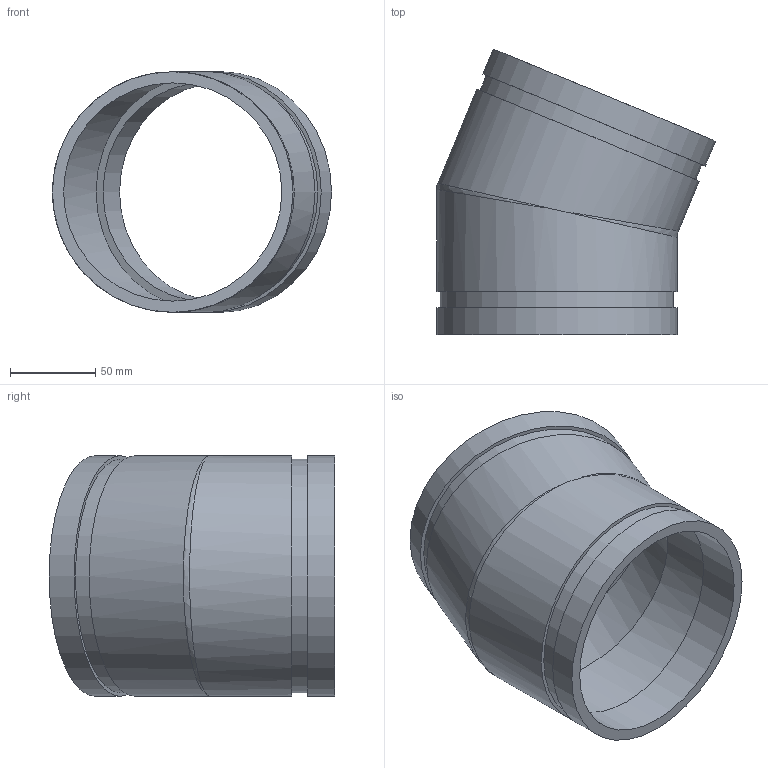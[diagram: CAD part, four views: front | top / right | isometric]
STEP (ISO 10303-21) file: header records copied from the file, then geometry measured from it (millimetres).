
FILE_DESCRIPTION(/* description */ ('VIC ELBOW 22 1/2 DEG No 12 (OGS)','CAx-IF Rec.Pracs.---Representation and Presentation of Product Manufacturing Information (PMI)---4.0---2014-10-13'),/* implementation_level */ '2;1');
FILE_NAME(/* name */ 'C:\Users\Vjadhav\Desktop\CAD for Inventor\1\12\STEP\Victaulic_IPS_Elbow 22.5 Deg_No 12 (OGS)\Victaulic_IPS_Elbow 22.5 Deg_No 12 (OGS)_5 (125).stp',/* time_stamp */ '2021-12-22T09:20:14+06:00',/* author */ ('CONSTRUCTION PIPING SERVICES'),/* organization */ ('Victaulic'),/* preprocessor_version */ 'ST-DEVELOPER v17.2',/* originating_system */ 'Autodesk Inventor 2019',/* authorisation */ '');
FILE_SCHEMA (('AP242_MANAGED_MODEL_BASED_3D_ENGINEERING_MIM_LF { 1 0 10303 442 1 1 4 }'));
Length unit declared in the file: inch
Products named in the file (1): 012-05.0
Bounding box: 163.92 x 167.77 x 141.3 mm (x, y, z)
Volume: 212238.9 mm3; surface area: 139216.4 mm2
Topology: 3 solids, 3 shells, 20 faces, 45 edges, 29 vertices
Faces by surface type: cylinder 10, plane 8, bspline 2
Full cylindrical faces by diameter (mm): 128.194 x2, 137.033 x4, 141.3 x4
Entity records: 790 total; most frequent: CARTESIAN_POINT 186, DIRECTION 136, ORIENTED_EDGE 82, AXIS2_PLACEMENT_3D 63, EDGE_CURVE 41, VERTEX_POINT 29, EDGE_LOOP 28, STYLED_ITEM 24
